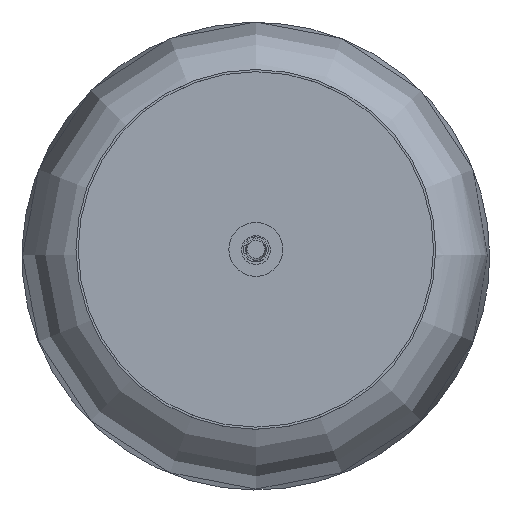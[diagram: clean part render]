
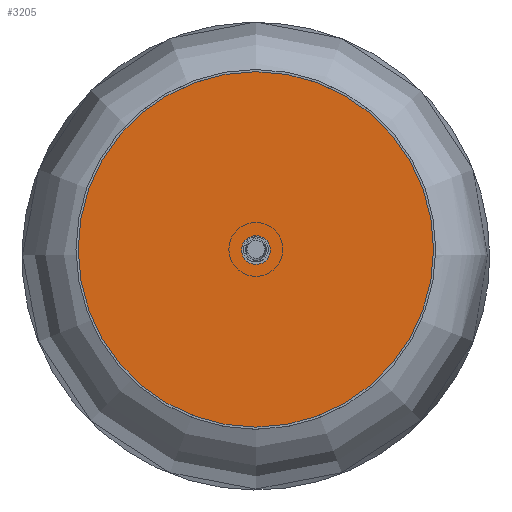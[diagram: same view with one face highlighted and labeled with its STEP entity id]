
A CAD part, top view. The second image highlights one B-rep face of the part: STEP entity #3205.
In plain terms, the highlighted planar face has unit normal (0, 0, 1).
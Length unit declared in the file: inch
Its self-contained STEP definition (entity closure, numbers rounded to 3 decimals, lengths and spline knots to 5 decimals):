
#33=FACE_BOUND('',#886,.T.);
#110=PLANE('',#3468);
#674=FACE_OUTER_BOUND('',#885,.T.);
#885=EDGE_LOOP('',(#2530));
#886=EDGE_LOOP('',(#2531));
#1057=CIRCLE('',#3463,0.2);
#1059=CIRCLE('',#3466,2.47);
#1449=VERTEX_POINT('',#8646);
#1451=VERTEX_POINT('',#8652);
#1840=EDGE_CURVE('',#1449,#1449,#1057,.T.);
#1843=EDGE_CURVE('',#1451,#1451,#1059,.F.);
#2530=ORIENTED_EDGE('',*,*,#1843,.T.);
#2531=ORIENTED_EDGE('',*,*,#1840,.T.);
#3205=ADVANCED_FACE('',(#674,#33),#110,.T.);
#3463=AXIS2_PLACEMENT_3D('',#8647,#3944,#3945);
#3466=AXIS2_PLACEMENT_3D('',#8653,#3951,#3952);
#3468=AXIS2_PLACEMENT_3D('',#8657,#3956,#3957);
#3944=DIRECTION('center_axis',(0.,0.,-1.));
#3945=DIRECTION('ref_axis',(1.,0.,0.));
#3951=DIRECTION('center_axis',(0.,0.,-1.));
#3952=DIRECTION('ref_axis',(1.,0.,0.));
#3956=DIRECTION('center_axis',(0.,0.,1.));
#3957=DIRECTION('ref_axis',(1.,0.,0.));
#8646=CARTESIAN_POINT('',(-0.19813,-0.00889,47.73));
#8647=CARTESIAN_POINT('Origin',(0.00187,-0.00889,
47.73));
#8652=CARTESIAN_POINT('',(-2.47,0.,47.73));
#8653=CARTESIAN_POINT('Origin',(0.,0.,47.73));
#8657=CARTESIAN_POINT('Origin',(0.,0.,47.73));
